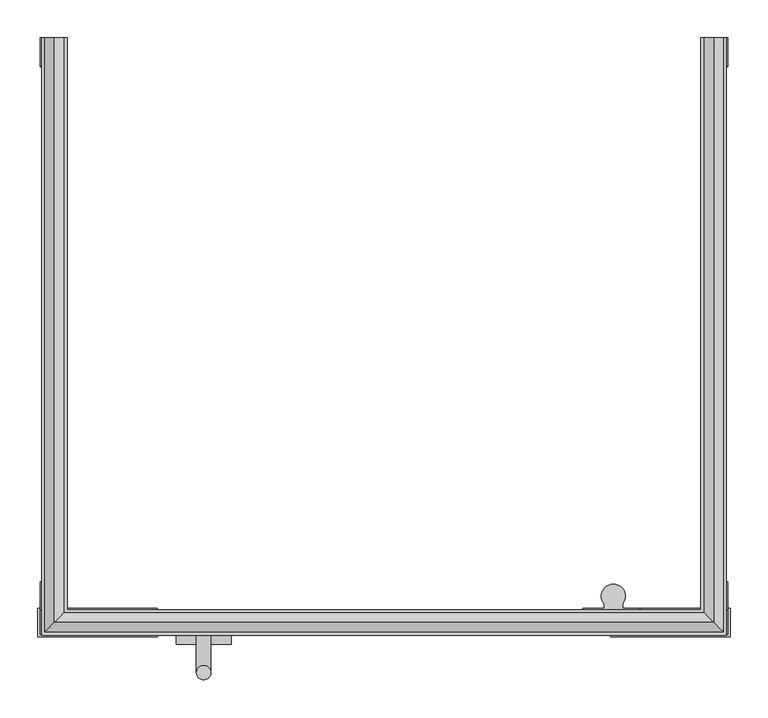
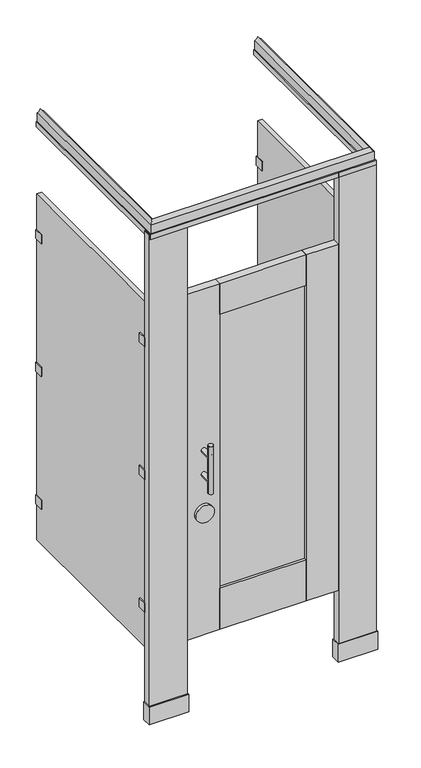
"""IFC4 building model written with IfcOpenShell, lengths in millimetres: proxy geometry, Toilet-Partition_Ironwood-Mfg_High-Pressure-Laminate : High Pressure Laminate - Headrail Braced - Door Lite Door."""

from ifc_helpers import new_model, si_unit, point, frame, frame_2d, origin, origin_with_axes, place, context, project, spatial, polyline, circle_curve, ellipse_curve, trimmed, segment, composite_curve, outline, extrude, source, transform, mapped, element, save
from ifc_brep_helpers import plane_surface, cylinder_surface, revolved_surface, advanced_brep


def specialty_equipment_eb44fc01(model_context):
    return source(origin(), model_context, "Body", "SolidModel", [
        extrude(outline(polyline([(701.675, -758.825), (701.675, -796.925), (542.925, -796.925), (542.925, -758.825), (701.675, -758.825)])), origin_with_axes(), (0.0, 0.0, 1.0), 76.2),
        extrude(outline(polyline([(698.5, -762.0), (698.5, -793.75), (546.1, -793.75), (546.1, -762.0), (698.5, -762.0)])), origin_with_axes(), (0.0, 0.0, 1.0), 2082.8),
        extrude(outline(polyline([(-219.075, -758.825), (-60.325, -758.825), (-60.325, -796.925), (-219.075, -796.925), (-219.075, -758.825)])), origin_with_axes(), (0.0, 0.0, 1.0), 76.2),
        extrude(outline(polyline([(-215.9, -762.0), (-63.5, -762.0), (-63.5, -793.75), (-215.9, -793.75), (-215.9, -762.0)])), origin_with_axes(), (0.0, 0.0, 1.0), 2082.8),
        extrude(outline(polyline([(415.925, -782.6375), (66.675, -782.6375), (66.675, -773.1125), (415.925, -773.1125), (415.925, -782.6375)])), frame((0.0, 0.0, 479.425), z_axis=(0.0, 0.0, 1.0), x_axis=(1.0, 0.0, 0.0)), (0.0, 0.0, 1.0), 1168.4),
        extrude(outline(polyline([(66.675, -762.0), (66.675, -793.75), (-63.5, -793.75), (-63.5, -762.0), (66.675, -762.0)])), frame((0.0, 0.0, 304.8), z_axis=(0.0, 0.0, 1.0), x_axis=(1.0, 0.0, 0.0)), (0.0, 0.0, 1.0), 1473.2),
        extrude(outline(polyline([(415.925, -762.0), (546.1, -762.0), (546.1, -793.75), (415.925, -793.75), (415.925, -762.0)])), frame((0.0, 0.0, 304.8), z_axis=(0.0, 0.0, 1.0), x_axis=(1.0, 0.0, 0.0)), (0.0, 0.0, 1.0), 1473.2),
        extrude(outline(polyline([(415.925, -762.0), (415.925, -793.75), (66.675, -793.75), (66.675, -762.0), (415.925, -762.0)])), frame((0.0, 0.0, 1647.825), z_axis=(0.0, 0.0, 1.0), x_axis=(1.0, 0.0, 0.0)), (0.0, 0.0, 1.0), 130.175),
        extrude(outline(polyline([(415.925, -762.0), (415.925, -793.75), (66.675, -793.75), (66.675, -762.0), (415.925, -762.0)])), frame((0.0, 0.0, 304.8), z_axis=(0.0, 0.0, 1.0), x_axis=(1.0, 0.0, 0.0)), (0.0, 0.0, 1.0), 174.625),
        extrude(outline(composite_curve([segment(trimmed(circle_curve(frame_2d((827.0875, 1.5875)), 36.5125), [point((827.0875, -34.925))], [point((827.0875, 38.1))], False, "CARTESIAN"), True, "CONTINUOUS"), segment(trimmed(circle_curve(frame_2d((827.0875, 1.5875)), 36.5125), [point((827.0875, 38.1))], [point((827.0875, -34.925))], False, "CARTESIAN"), True, "CONTINUOUS")], self_intersect=False)), frame((0.0, -806.45, 0.0), z_axis=(0.0, 1.0, 0.0), x_axis=(0.0, 0.0, 1.0)), (0.0, 0.0, 1.0), 12.7),
        advanced_brep(
        [(-7.9375, -793.75, 1092.2), (11.1125, -793.75, 1092.2), (-7.9375, -793.75, 990.6), (11.1125, -793.75, 990.6), (11.1125, -844.55, 1092.2), (-7.9375, -844.55, 1092.2), (11.1125, -844.55, 990.6), (-7.9375, -844.55, 990.6), (-7.9375, -844.55, 1143.0), (11.1125, -844.55, 1143.0), (-7.9375, -844.55, 939.8), (11.1125, -844.55, 939.8)],
        [
            (0, 1, circle_curve(frame((1.5875, -793.75, 1092.2), z_axis=(0.0, 1.0, 0.0), x_axis=(1.0, 0.0, 0.0)), 9.525)),
            (1, 0, circle_curve(frame((1.5875, -793.75, 1092.2), z_axis=(0.0, 1.0, 0.0), x_axis=(1.0, 0.0, 0.0)), 9.525)),
            (2, 3, circle_curve(frame((1.5875, -793.75, 990.6), z_axis=(0.0, 1.0, 0.0), x_axis=(1.0, 0.0, 0.0)), 9.525)),
            (3, 2, circle_curve(frame((1.5875, -793.75, 990.6), z_axis=(0.0, 1.0, 0.0), x_axis=(1.0, 0.0, 0.0)), 9.525)),
            (1, 4),
            (4, 5, ellipse_curve(frame((1.5875, -844.55, 1092.2), z_axis=(0.0, 0.7071067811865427, 0.7071067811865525), x_axis=(0.0, -0.7071067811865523, 0.7071067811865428)), 13.4703842, 9.525)),
            (5, 0),
            (5, 4, ellipse_curve(frame((1.5875, -844.55, 1092.2), z_axis=(0.0, 0.7071067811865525, -0.7071067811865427), x_axis=(0.0, -0.7071067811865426, -0.7071067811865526)), 13.4703842, 9.525)),
            (3, 6),
            (6, 7, ellipse_curve(frame((1.5875, -844.55, 990.6), z_axis=(0.0, 0.7071067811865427, 0.7071067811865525), x_axis=(0.0, -0.7071067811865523, 0.7071067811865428)), 13.4703842, 9.525)),
            (7, 2),
            (7, 6, ellipse_curve(frame((1.5875, -844.55, 990.6), z_axis=(0.0, 0.7071067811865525, -0.7071067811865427), x_axis=(0.0, -0.7071067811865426, -0.7071067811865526)), 13.4703842, 9.525)),
            (8, 9, circle_curve(frame((1.5875, -844.55, 1143.0), z_axis=(0.0, 0.0, 1.0), x_axis=(1.0, 0.0, 0.0)), 9.525)),
            (9, 8, circle_curve(frame((1.5875, -844.55, 1143.0), z_axis=(0.0, 0.0, 1.0), x_axis=(1.0, 0.0, 0.0)), 9.525)),
            (10, 11, circle_curve(frame((1.5875, -844.55, 939.8), z_axis=(0.0, 0.0, -1.0), x_axis=(1.0, 0.0, 0.0)), 9.525)),
            (11, 10, circle_curve(frame((1.5875, -844.55, 939.8), z_axis=(0.0, 0.0, -1.0), x_axis=(1.0, 0.0, 0.0)), 9.525)),
            (8, 5),
            (5, 7),
            (7, 10),
            (11, 6),
            (6, 4),
            (4, 9),
        ],
        [
            plane_surface(frame((11.1125, -793.75, 1092.2), z_axis=(0.0, 1.0, 0.0), x_axis=(0.0, 0.0, -1.0))),
            cylinder_surface(frame((1.5875, -793.75, 1092.2), z_axis=(0.0, -1.0, 0.0), x_axis=(1.0, 0.0, 0.0)), 9.525),
            cylinder_surface(frame((1.5875, -793.75, 990.6), z_axis=(0.0, -1.0, 0.0), x_axis=(1.0, 0.0, 0.0)), 9.525),
            plane_surface(frame((11.1125, -844.55, 1143.0), z_axis=(0.0, 0.0, 1.0), x_axis=(0.0, 1.0, 0.0))),
            plane_surface(frame((11.1125, -844.55, 939.8), z_axis=(0.0, 0.0, -1.0), x_axis=(0.0, -1.0, 0.0))),
            cylinder_surface(frame((1.5875, -844.55, 939.8), z_axis=(0.0, 0.0, 1.0), x_axis=(1.0, 0.0, 0.0)), 9.525),
        ],
        [
            (0, [[1, 2]]),
            (0, [[3, 4]]),
            (1, [[-2, 5, 6, 7]]),
            (1, [[-1, -7, 8, -5]]),
            (2, [[-4, 9, 10, 11]]),
            (2, [[-3, -11, 12, -9]]),
            (3, [[13, 14]]),
            (4, [[15, 16]]),
            (5, [[-13, 17, 18, 19, -16, 20, 21, 22]]),
            (5, [[-14, -22, -8, -17]]),
            (5, [[-15, -19, -10, -20]]),
            (5, [[-18, -6, -21, -12]]),
        ],
    ),
        extrude(outline(composite_curve([segment(polyline([(581.3737081, -762.0), (505.1737081, -762.0), (505.1737081, -758.825), (533.7487081, -758.825), (533.7487081, -752.9581331)]), True, "CONTINUOUS"), segment(trimmed(circle_curve(frame_2d((546.1, -742.8902139)), 15.9347861), [point((533.7487081, -752.9581331))], [point((558.4512919, -752.9581331))], False, "CARTESIAN"), True, "CONTINUOUS"), segment(polyline([(558.4512919, -752.9581331), (558.4512919, -758.825), (581.3737081, -758.825), (581.3737081, -762.0)]), True, "CONTINUOUS")], self_intersect=False)), frame((0.0, 0.0, 1574.8), z_axis=(0.0, 0.0, 1.0), x_axis=(1.0, 0.0, 0.0)), (0.0, 0.0, 1.0), 63.5),
        extrude(outline(composite_curve([segment(polyline([(581.3737081, -762.0), (505.1737081, -762.0), (505.1737081, -758.825), (533.7487081, -758.825), (533.7487081, -752.9581331)]), True, "CONTINUOUS"), segment(trimmed(circle_curve(frame_2d((546.1, -742.8902139)), 15.9347861), [point((533.7487081, -752.9581331))], [point((558.4512919, -752.9581331))], False, "CARTESIAN"), True, "CONTINUOUS"), segment(polyline([(558.4512919, -752.9581331), (558.4512919, -758.825), (581.3737081, -758.825), (581.3737081, -762.0)]), True, "CONTINUOUS")], self_intersect=False)), frame((0.0, 0.0, 1009.6500001), z_axis=(0.0, 0.0, 1.0), x_axis=(1.0, 0.0, 0.0)), (0.0, 0.0, 1.0), 63.5),
        extrude(outline(composite_curve([segment(polyline([(581.3737081, -762.0), (505.1737081, -762.0), (505.1737081, -758.825), (533.7487081, -758.825), (533.7487081, -752.9581331)]), True, "CONTINUOUS"), segment(trimmed(circle_curve(frame_2d((546.1, -742.8902139)), 15.9347861), [point((533.7487081, -752.9581331))], [point((558.4512919, -752.9581331))], False, "CARTESIAN"), True, "CONTINUOUS"), segment(polyline([(558.4512919, -752.9581331), (558.4512919, -758.825), (581.3737081, -758.825), (581.3737081, -762.0)]), True, "CONTINUOUS")], self_intersect=False)), frame((0.0, 0.0, 444.5), z_axis=(0.0, 0.0, 1.0), x_axis=(1.0, 0.0, 0.0)), (0.0, 0.0, 1.0), 63.5),
        extrude(outline(polyline([(676.148, -723.9), (676.148, -758.825), (695.198, -758.825), (695.198, -723.9), (698.373, -723.9), (698.373, -762.0), (672.973, -762.0), (672.973, -723.9), (676.148, -723.9)])), frame((0.0, 0.0, 1587.8188137), z_axis=(0.0, 0.0, 1.0), x_axis=(1.0, 0.0, 0.0)), (0.0, 0.0, 1.0), 38.1),
        extrude(outline(polyline([(676.148, -38.1), (672.973, -38.1), (672.973, 0.0), (698.373, 0.0), (698.373, -38.1), (695.198, -38.1), (695.198, -3.175), (676.148, -3.175), (676.148, -38.1)])), frame((0.0, 0.0, 1587.8188137), z_axis=(0.0, 0.0, 1.0), x_axis=(1.0, 0.0, 0.0)), (0.0, 0.0, 1.0), 38.1),
        extrude(outline(polyline([(676.148, -723.9), (676.148, -758.825), (695.198, -758.825), (695.198, -723.9), (698.373, -723.9), (698.373, -762.0), (672.973, -762.0), (672.973, -723.9), (676.148, -723.9)])), frame((0.0, 0.0, 1022.35), z_axis=(0.0, 0.0, 1.0), x_axis=(1.0, 0.0, 0.0)), (0.0, 0.0, 1.0), 38.1),
        extrude(outline(polyline([(676.148, -38.1), (672.973, -38.1), (672.973, 0.0), (698.373, 0.0), (698.373, -38.1), (695.198, -38.1), (695.198, -3.175), (676.148, -3.175), (676.148, -38.1)])), frame((0.0, 0.0, 1022.35), z_axis=(0.0, 0.0, 1.0), x_axis=(1.0, 0.0, 0.0)), (0.0, 0.0, 1.0), 38.1),
        extrude(outline(polyline([(676.148, -723.9), (676.148, -758.825), (695.198, -758.825), (695.198, -723.9), (698.373, -723.9), (698.373, -762.0), (672.973, -762.0), (672.973, -723.9), (676.148, -723.9)])), frame((0.0, 0.0, 457.2), z_axis=(0.0, 0.0, 1.0), x_axis=(1.0, 0.0, 0.0)), (0.0, 0.0, 1.0), 38.1),
        extrude(outline(polyline([(676.148, -38.1), (672.973, -38.1), (672.973, 0.0), (698.373, 0.0), (698.373, -38.1), (695.198, -38.1), (695.198, -3.175), (676.148, -3.175), (676.148, -38.1)])), frame((0.0, 0.0, 457.2), z_axis=(0.0, 0.0, 1.0), x_axis=(1.0, 0.0, 0.0)), (0.0, 0.0, 1.0), 38.1),
        extrude(outline(polyline([(-212.598, -723.9), (-212.598, -758.825), (-193.548, -758.825), (-193.548, -723.9), (-190.373, -723.9), (-190.373, -762.0), (-215.773, -762.0), (-215.773, -723.9), (-212.598, -723.9)])), frame((0.0, 0.0, 1587.8188137), z_axis=(0.0, 0.0, 1.0), x_axis=(1.0, 0.0, 0.0)), (0.0, 0.0, 1.0), 38.1),
        extrude(outline(polyline([(-212.598, -38.1), (-215.773, -38.1), (-215.773, 0.0), (-190.373, 0.0), (-190.373, -38.1), (-193.548, -38.1), (-193.548, -3.175), (-212.598, -3.175), (-212.598, -38.1)])), frame((0.0, 0.0, 1587.8188137), z_axis=(0.0, 0.0, 1.0), x_axis=(1.0, 0.0, 0.0)), (0.0, 0.0, 1.0), 38.1),
        extrude(outline(polyline([(-212.598, -723.9), (-212.598, -758.825), (-193.548, -758.825), (-193.548, -723.9), (-190.373, -723.9), (-190.373, -762.0), (-215.773, -762.0), (-215.773, -723.9), (-212.598, -723.9)])), frame((0.0, 0.0, 1022.35), z_axis=(0.0, 0.0, 1.0), x_axis=(1.0, 0.0, 0.0)), (0.0, 0.0, 1.0), 38.1),
        extrude(outline(polyline([(-212.598, -38.1), (-215.773, -38.1), (-215.773, 0.0), (-190.373, 0.0), (-190.373, -38.1), (-193.548, -38.1), (-193.548, -3.175), (-212.598, -3.175), (-212.598, -38.1)])), frame((0.0, 0.0, 1022.35), z_axis=(0.0, 0.0, 1.0), x_axis=(1.0, 0.0, 0.0)), (0.0, 0.0, 1.0), 38.1),
        extrude(outline(polyline([(-212.598, -723.9), (-212.598, -758.825), (-193.548, -758.825), (-193.548, -723.9), (-190.373, -723.9), (-190.373, -762.0), (-215.773, -762.0), (-215.773, -723.9), (-212.598, -723.9)])), frame((0.0, 0.0, 457.2), z_axis=(0.0, 0.0, 1.0), x_axis=(1.0, 0.0, 0.0)), (0.0, 0.0, 1.0), 38.1),
        extrude(outline(polyline([(-212.598, -38.1), (-215.773, -38.1), (-215.773, 0.0), (-190.373, 0.0), (-190.373, -38.1), (-193.548, -38.1), (-193.548, -3.175), (-212.598, -3.175), (-212.598, -38.1)])), frame((0.0, 0.0, 457.2), z_axis=(0.0, 0.0, 1.0), x_axis=(1.0, 0.0, 0.0)), (0.0, 0.0, 1.0), 38.1),
        extrude(outline(polyline([(-193.548, -3.175), (-193.548, -758.825), (-212.598, -758.825), (-212.598, -3.175), (-193.548, -3.175)])), frame((0.0, 0.0, 304.8), z_axis=(0.0, 0.0, 1.0), x_axis=(1.0, 0.0, 0.0)), (0.0, 0.0, 1.0), 1473.2),
        extrude(outline(polyline([(695.198, -3.175), (695.198, -758.825), (676.148, -758.825), (676.148, -3.175), (695.198, -3.175)])), frame((0.0, 0.0, 304.8), z_axis=(0.0, 0.0, 1.0), x_axis=(1.0, 0.0, 0.0)), (0.0, 0.0, 1.0), 1473.2),
        advanced_brep(
        [(663.448, 0.0, 2063.75), (662.257375, 0.0, 2063.75), (662.257375, 0.0, 2083.990625), (666.623, 0.0, 2083.990625), (666.623, 0.0, 2120.9), (679.323, 0.0, 2133.6), (692.023, 0.0, 2120.9), (692.023, 0.0, 2083.990625), (696.388625, 0.0, 2083.990625), (696.388625, 0.0, 2063.75), (695.198, 0.0, 2063.75), (695.198, 0.0, 2082.8), (663.448, 0.0, 2082.8), (667.813625, 0.0, 2119.709375), (667.813625, 0.0, 2083.990625), (690.832375, 0.0, 2083.990625), (690.832375, 0.0, 2119.709375), (679.323, 0.0, 2131.21875), (663.448, -762.0, 2063.75), (663.448, -762.0, 2082.8), (-180.848, -762.0, 2082.8), (-180.848, -762.0, 2063.75), (695.198, -793.75, 2082.8), (695.198, -793.75, 2063.75), (-212.598, -793.75, 2063.75), (-212.598, -793.75, 2082.8), (696.388625, -794.940625, 2063.75), (696.388625, -794.940625, 2083.990625), (-213.788625, -794.940625, 2083.990625), (-213.788625, -794.940625, 2063.75), (692.023, -790.575, 2083.990625), (692.023, -790.575, 2120.9), (-209.423, -790.575, 2120.9), (-209.423, -790.575, 2083.990625), (679.323, -777.875, 2133.6), (-196.723, -777.875, 2133.6), (666.623, -765.175, 2120.9), (-184.023, -765.175, 2120.9), (666.623, -765.175, 2083.990625), (-184.023, -765.175, 2083.990625), (662.257375, -760.809375, 2083.990625), (662.257375, -760.809375, 2063.75), (-179.657375, -760.809375, 2063.75), (-179.657375, -760.809375, 2083.990625), (667.813625, -766.365625, 2119.709375), (679.323, -777.875, 2131.21875), (-196.723, -777.875, 2131.21875), (-185.213625, -766.365625, 2119.709375), (690.832375, -789.384375, 2119.709375), (-208.232375, -789.384375, 2119.709375), (690.832375, -789.384375, 2083.990625), (-208.232375, -789.384375, 2083.990625), (667.813625, -766.365625, 2083.990625), (-185.213625, -766.365625, 2083.990625), (-180.848, 0.0, 2063.75), (-180.848, 0.0, 2082.8), (-212.598, 0.0, 2082.8), (-212.598, 0.0, 2063.75), (-213.788625, 0.0, 2063.75), (-213.788625, 0.0, 2083.990625), (-209.423, 0.0, 2083.990625), (-209.423, 0.0, 2120.9), (-196.723, 0.0, 2133.6), (-184.023, 0.0, 2120.9), (-184.023, 0.0, 2083.990625), (-179.657375, 0.0, 2083.990625), (-179.657375, 0.0, 2063.75), (-185.213625, 0.0, 2119.709375), (-196.723, 0.0, 2131.21875), (-208.232375, 0.0, 2119.709375), (-208.232375, 0.0, 2083.990625), (-185.213625, 0.0, 2083.990625)],
        [
            (0, 1),
            (1, 2),
            (2, 3),
            (3, 4),
            (4, 5, circle_curve(frame((649.9091809, 0.0, 2150.3138191), z_axis=(0.0, -1.0, 0.0), x_axis=(1.0, 0.0, 0.0)), 33.8308218)),
            (5, 6, circle_curve(frame((708.7368191, 0.0, 2150.3138191), z_axis=(0.0, -1.0, 0.0), x_axis=(1.0, 0.0, 0.0)), 33.8308218)),
            (6, 7),
            (7, 8),
            (8, 9),
            (9, 10),
            (10, 11),
            (11, 12),
            (12, 0),
            (13, 14),
            (14, 15),
            (15, 16),
            (16, 17, circle_curve(frame((709.9824574, 0.0, 2150.3688324), z_axis=(0.0, 1.0, 0.0), x_axis=(1.0, 0.0, 0.0)), 36.1486927)),
            (17, 13, circle_curve(frame((648.6635426, 0.0, 2150.3688324), z_axis=(0.0, 1.0, 0.0), x_axis=(1.0, 0.0, 0.0)), 36.1486927)),
            (18, 19),
            (19, 20),
            (20, 21),
            (21, 18),
            (22, 23),
            (23, 24),
            (24, 25),
            (25, 22),
            (26, 27),
            (27, 28),
            (28, 29),
            (29, 26),
            (30, 31),
            (31, 32),
            (32, 33),
            (33, 30),
            (31, 34, ellipse_curve(frame((708.7368191, -807.2888191, 2150.3138191), z_axis=(0.7071067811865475, 0.7071067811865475, 0.0), x_axis=(-0.7071067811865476, 0.7071067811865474, 0.0)), 47.844007, 33.8308218)),
            (34, 35),
            (35, 32, ellipse_curve(frame((-226.1368191, -807.2888191, 2150.3138191), z_axis=(-0.7071067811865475, 0.7071067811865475, 0.0), x_axis=(-0.7071067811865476, -0.7071067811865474, 0.0)), 47.844007, 33.8308218)),
            (34, 36, ellipse_curve(frame((649.9091809, -748.4611809, 2150.3138191), z_axis=(0.7071067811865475, 0.7071067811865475, 0.0), x_axis=(-0.7071067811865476, 0.7071067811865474, 0.0)), 47.844007, 33.8308218)),
            (36, 37),
            (37, 35, ellipse_curve(frame((-167.3091809, -748.4611809, 2150.3138191), z_axis=(-0.7071067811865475, 0.7071067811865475, 0.0), x_axis=(-0.7071067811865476, -0.7071067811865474, 0.0)), 47.844007, 33.8308218)),
            (36, 38),
            (38, 39),
            (39, 37),
            (40, 41),
            (41, 42),
            (42, 43),
            (43, 40),
            (44, 45, ellipse_curve(frame((648.6635426, -747.2155426, 2150.3688324), z_axis=(-0.7071067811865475, -0.7071067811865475, 0.0), x_axis=(0.7071067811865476, -0.7071067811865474, 0.0)), 51.1219715, 36.1486927)),
            (45, 46),
            (46, 47, ellipse_curve(frame((-166.0635426, -747.2155426, 2150.3688324), z_axis=(0.7071067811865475, -0.7071067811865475, 0.0), x_axis=(0.7071067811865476, 0.7071067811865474, 0.0)), 51.1219715, 36.1486927)),
            (47, 44),
            (45, 48, ellipse_curve(frame((709.9824574, -808.5344574, 2150.3688324), z_axis=(-0.7071067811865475, -0.7071067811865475, 0.0), x_axis=(0.7071067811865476, -0.7071067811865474, 0.0)), 51.1219715, 36.1486927)),
            (48, 49),
            (49, 46, ellipse_curve(frame((-227.3824574, -808.5344574, 2150.3688324), z_axis=(0.7071067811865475, -0.7071067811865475, 0.0), x_axis=(0.7071067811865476, 0.7071067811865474, 0.0)), 51.1219715, 36.1486927)),
            (48, 50),
            (50, 51),
            (51, 49),
            (52, 44),
            (47, 53),
            (53, 52),
            (54, 55),
            (55, 56),
            (56, 57),
            (57, 58),
            (58, 59),
            (59, 60),
            (60, 61),
            (61, 62, circle_curve(frame((-226.1368191, 0.0, 2150.3138191), z_axis=(0.0, -1.0, 0.0), x_axis=(-1.0, 0.0, 0.0)), 33.8308218)),
            (62, 63, circle_curve(frame((-167.3091809, 0.0, 2150.3138191), z_axis=(0.0, -1.0, 0.0), x_axis=(-1.0, 0.0, 0.0)), 33.8308218)),
            (63, 64),
            (64, 65),
            (65, 66),
            (66, 54),
            (67, 68, circle_curve(frame((-166.0635426, 0.0, 2150.3688324), z_axis=(0.0, 1.0, 0.0), x_axis=(-1.0, 0.0, 0.0)), 36.1486927)),
            (68, 69, circle_curve(frame((-227.3824574, 0.0, 2150.3688324), z_axis=(0.0, 1.0, 0.0), x_axis=(-1.0, 0.0, 0.0)), 36.1486927)),
            (69, 70),
            (70, 71),
            (71, 67),
            (20, 55),
            (54, 21),
            (24, 57),
            (56, 25),
            (28, 59),
            (58, 29),
            (32, 61),
            (60, 33),
            (35, 62),
            (37, 63),
            (39, 64),
            (42, 66),
            (65, 43),
            (46, 68),
            (67, 47),
            (49, 69),
            (51, 70),
            (71, 53),
            (0, 18),
            (41, 1),
            (40, 2),
            (38, 3),
            (36, 4),
            (34, 5),
            (31, 6),
            (30, 7),
            (27, 8),
            (26, 9),
            (23, 10),
            (22, 11),
            (19, 12),
            (13, 44),
            (52, 14),
            (50, 15),
            (48, 16),
            (45, 17),
        ],
        [
            plane_surface(frame((695.198, 0.0, 0.0), z_axis=(0.0, 1.0, 0.0), x_axis=(0.0, 0.0, 1.0))),
            plane_surface(frame((663.448, -762.0, 2082.8), z_axis=(0.0, -1.0, 0.0), x_axis=(-1.0, 0.0, 0.0))),
            plane_surface(frame((695.198, -793.75, 2063.75), z_axis=(0.0, 1.0, 0.0), x_axis=(-1.0, 0.0, 0.0))),
            plane_surface(frame((696.388625, -794.940625, 2083.990625), z_axis=(0.0, -1.0, 0.0), x_axis=(-1.0, 0.0, 0.0))),
            plane_surface(frame((692.023, -790.575, 2120.9), z_axis=(0.0, -1.0, 0.0), x_axis=(-1.0, 0.0, 0.0))),
            revolved_surface(polyline([(-259.9676408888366, -841.1196408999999, 2150.3138191), (742.5676408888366, -841.1196408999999, 2150.3138191)]), (695.198, -807.2888191, 2150.3138191), (-1.0, 0.0, 0.0)),
            revolved_surface(polyline([(-201.1400026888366, -782.2920027, 2150.3138191), (683.7400026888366, -782.2920027, 2150.3138191)]), (695.198, -748.4611809, 2150.3138191), (-1.0, 0.0, 0.0)),
            plane_surface(frame((666.623, -765.175, 2083.990625), z_axis=(0.0, 1.0, 0.0), x_axis=(-1.0, 0.0, 0.0))),
            plane_surface(frame((662.257375, -760.809375, 2063.75), z_axis=(0.0, 1.0, 0.0), x_axis=(-1.0, 0.0, 0.0))),
            cylinder_surface(frame((695.198, -747.2155426, 2150.3688324), z_axis=(1.0, 0.0, 0.0), x_axis=(0.0, -1.0, 0.0)), 36.1486927),
            cylinder_surface(frame((695.198, -808.5344574, 2150.3688324), z_axis=(1.0, 0.0, 0.0), x_axis=(0.0, -1.0, 0.0)), 36.1486927),
            plane_surface(frame((690.832375, -789.384375, 2083.990625), z_axis=(0.0, 1.0, 0.0), x_axis=(-1.0, 0.0, 0.0))),
            plane_surface(frame((667.813625, -766.365625, 2119.709375), z_axis=(0.0, -1.0, 0.0), x_axis=(-1.0, 0.0, 0.0))),
            plane_surface(frame((-212.598, 0.0, 0.0), z_axis=(0.0, 1.0, 0.0), x_axis=(0.0, 0.0, 1.0))),
            plane_surface(frame((-180.848, -762.0, 2082.8), z_axis=(-1.0, 0.0, 0.0), x_axis=(0.0, 1.0, 0.0))),
            plane_surface(frame((-212.598, -793.75, 2063.75), z_axis=(1.0, 0.0, 0.0), x_axis=(0.0, 1.0, 0.0))),
            plane_surface(frame((-213.788625, -794.940625, 2083.990625), z_axis=(-1.0, 0.0, 0.0), x_axis=(0.0, 1.0, 0.0))),
            plane_surface(frame((-209.423, -790.575, 2120.9), z_axis=(-1.0, 0.0, 0.0), x_axis=(0.0, 1.0, 0.0))),
            revolved_surface(polyline([(-259.9676409, 0.0, 2150.3138191), (-259.9676409, -841.1196408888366, 2150.3138191)]), (-226.1368191, -793.75, 2150.3138191), (0.0, 1.0, 0.0)),
            revolved_surface(polyline([(-201.1400027, 0.0, 2150.3138191), (-201.1400027, -782.2920026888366, 2150.3138191)]), (-167.3091809, -793.75, 2150.3138191), (0.0, 1.0, 0.0)),
            plane_surface(frame((-184.023, -765.175, 2083.990625), z_axis=(1.0, 0.0, 0.0), x_axis=(0.0, 1.0, 0.0))),
            plane_surface(frame((-179.657375, -760.809375, 2063.75), z_axis=(1.0, 0.0, 0.0), x_axis=(0.0, 1.0, 0.0))),
            cylinder_surface(frame((-166.0635426, -793.75, 2150.3688324), z_axis=(0.0, -1.0, 0.0), x_axis=(-1.0, 0.0, 0.0)), 36.1486927),
            cylinder_surface(frame((-227.3824574, -793.75, 2150.3688324), z_axis=(0.0, -1.0, 0.0), x_axis=(-1.0, 0.0, 0.0)), 36.1486927),
            plane_surface(frame((-208.232375, -789.384375, 2083.990625), z_axis=(1.0, 0.0, 0.0), x_axis=(0.0, 1.0, 0.0))),
            plane_surface(frame((-185.213625, -766.365625, 2119.709375), z_axis=(-1.0, 0.0, 0.0), x_axis=(0.0, 1.0, 0.0))),
            plane_surface(frame((663.448, 0.0, 2063.75), z_axis=(0.0, 0.0, -1.0), x_axis=(0.0, -1.0, 0.0))),
            plane_surface(frame((662.257375, 0.0, 2063.75), z_axis=(-1.0, 0.0, 0.0), x_axis=(0.0, -1.0, 0.0))),
            plane_surface(frame((662.257375, 0.0, 2083.990625), z_axis=(0.0, 0.0, 1.0), x_axis=(0.0, -1.0, 0.0))),
            plane_surface(frame((666.623, 0.0, 2083.990625), z_axis=(-1.0, 0.0, 0.0), x_axis=(0.0, -1.0, 0.0))),
            revolved_surface(polyline([(683.7400027, -782.2920026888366, 2150.3138191), (683.7400027, 0.0, 2150.3138191)]), (649.9091809, 0.0, 2150.3138191), (0.0, -1.0, 0.0)),
            revolved_surface(polyline([(742.5676409, -841.1196408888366, 2150.3138191), (742.5676409, 0.0, 2150.3138191)]), (708.7368191, 0.0, 2150.3138191), (0.0, -1.0, 0.0)),
            plane_surface(frame((692.023, 0.0, 2120.9), z_axis=(1.0, 0.0, 0.0), x_axis=(0.0, -1.0, 0.0))),
            plane_surface(frame((692.023, 0.0, 2083.990625), z_axis=(0.0, 0.0, 1.0), x_axis=(0.0, -1.0, 0.0))),
            plane_surface(frame((696.388625, 0.0, 2083.990625), z_axis=(1.0, 0.0, 0.0), x_axis=(0.0, -1.0, 0.0))),
            plane_surface(frame((696.388625, 0.0, 2063.75), z_axis=(0.0, 0.0, -1.0), x_axis=(0.0, -1.0, 0.0))),
            plane_surface(frame((695.198, 0.0, 2063.75), z_axis=(-1.0, 0.0, 0.0), x_axis=(0.0, -1.0, 0.0))),
            plane_surface(frame((695.198, 0.0, 2082.8), z_axis=(0.0, 0.0, -1.0), x_axis=(0.0, -1.0, 0.0))),
            plane_surface(frame((663.448, 0.0, 2082.8), z_axis=(1.0, 0.0, 0.0), x_axis=(0.0, -1.0, 0.0))),
            plane_surface(frame((667.813625, 0.0, 2119.709375), z_axis=(1.0, 0.0, 0.0), x_axis=(0.0, -1.0, 0.0))),
            plane_surface(frame((667.813625, 0.0, 2083.990625), z_axis=(0.0, 0.0, 1.0), x_axis=(0.0, -1.0, 0.0))),
            plane_surface(frame((690.832375, 0.0, 2083.990625), z_axis=(-1.0, 0.0, 0.0), x_axis=(0.0, -1.0, 0.0))),
            cylinder_surface(frame((709.9824574, 0.0, 2150.3688324), z_axis=(0.0, 1.0, 0.0), x_axis=(1.0, 0.0, 0.0)), 36.1486927),
            cylinder_surface(frame((648.6635426, 0.0, 2150.3688324), z_axis=(0.0, 1.0, 0.0), x_axis=(1.0, 0.0, 0.0)), 36.1486927),
        ],
        [
            (0, [[1, 2, 3, 4, 5, 6, 7, 8, 9, 10, 11, 12, 13], [14, 15, 16, 17, 18]]),
            (1, [[19, 20, 21, 22]]),
            (2, [[23, 24, 25, 26]]),
            (3, [[27, 28, 29, 30]]),
            (4, [[31, 32, 33, 34]]),
            (5, [[35, 36, 37, -32]]),
            (6, [[38, 39, 40, -36]]),
            (7, [[41, 42, 43, -39]]),
            (8, [[44, 45, 46, 47]]),
            (9, [[48, 49, 50, 51]]),
            (10, [[52, 53, 54, -49]]),
            (11, [[55, 56, 57, -53]]),
            (12, [[58, -51, 59, 60]]),
            (13, [[61, 62, 63, 64, 65, 66, 67, 68, 69, 70, 71, 72, 73], [74, 75, 76, 77, 78]]),
            (14, [[-21, 79, -61, 80]]),
            (15, [[-25, 81, -63, 82]]),
            (16, [[-29, 83, -65, 84]]),
            (17, [[-33, 85, -67, 86]]),
            (18, [[-37, 87, -68, -85]]),
            (19, [[-40, 88, -69, -87]]),
            (20, [[-43, 89, -70, -88]]),
            (21, [[-46, 90, -72, 91]]),
            (22, [[-50, 92, -74, 93]]),
            (23, [[-54, 94, -75, -92]]),
            (24, [[-57, 95, -76, -94]]),
            (25, [[-59, -93, -78, 96]]),
            (26, [[-1, 97, -22, -80, -73, -90, -45, 98]]),
            (27, [[-2, -98, -44, 99]]),
            (28, [[-3, -99, -47, -91, -71, -89, -42, 100]]),
            (29, [[-4, -100, -41, 101]]),
            (30, [[-5, -101, -38, 102]]),
            (31, [[-6, -102, -35, 103]]),
            (32, [[-7, -103, -31, 104]]),
            (33, [[-8, -104, -34, -86, -66, -83, -28, 105]]),
            (34, [[-9, -105, -27, 106]]),
            (35, [[-10, -106, -30, -84, -64, -81, -24, 107]]),
            (36, [[-11, -107, -23, 108]]),
            (37, [[-12, -108, -26, -82, -62, -79, -20, 109]]),
            (38, [[-13, -109, -19, -97]]),
            (39, [[-14, 110, -58, 111]]),
            (40, [[-15, -111, -60, -96, -77, -95, -56, 112]]),
            (41, [[-16, -112, -55, 113]]),
            (42, [[-17, -113, -52, 114]]),
            (43, [[-18, -114, -48, -110]]),
        ],
    ),
    ])


if __name__ == "__main__":
    model = new_model("IFC4")
    model_context = context("Model", 3, world=origin())
    ifc_project = project(units=[si_unit("LENGTHUNIT", "METRE", prefix="MILLI")], contexts=[model_context])
    site = spatial("IfcSite", under=ifc_project)
    building = spatial("IfcBuilding", under=site)
    placement = place(None, origin())
    specialty_equipment_shape = specialty_equipment_eb44fc01(model_context)
    element("IfcBuildingElementProxy", 1, Name="Toilet-Partition_Ironwood-Mfg_High-Pressure-Laminate : High Pressure Laminate - Headrail Braced - Door Lite Door", ObjectType="Toilet-Partition_Ironwood-Mfg_High-Pressure-Laminate : High Pressure Laminate - Headrail Braced - Door Lite Door", at=placement, inside=building, context=model_context, shape_type="MappedRepresentation", body=[
        mapped(specialty_equipment_shape, transform((0.0, 0.0, 0.0), x_axis=(1.0, 0.0, 0.0), y_axis=(0.0, 1.0, 0.0), z_axis=(0.0, 0.0, 1.0))),
    ])
    save(model, "model.ifc")
